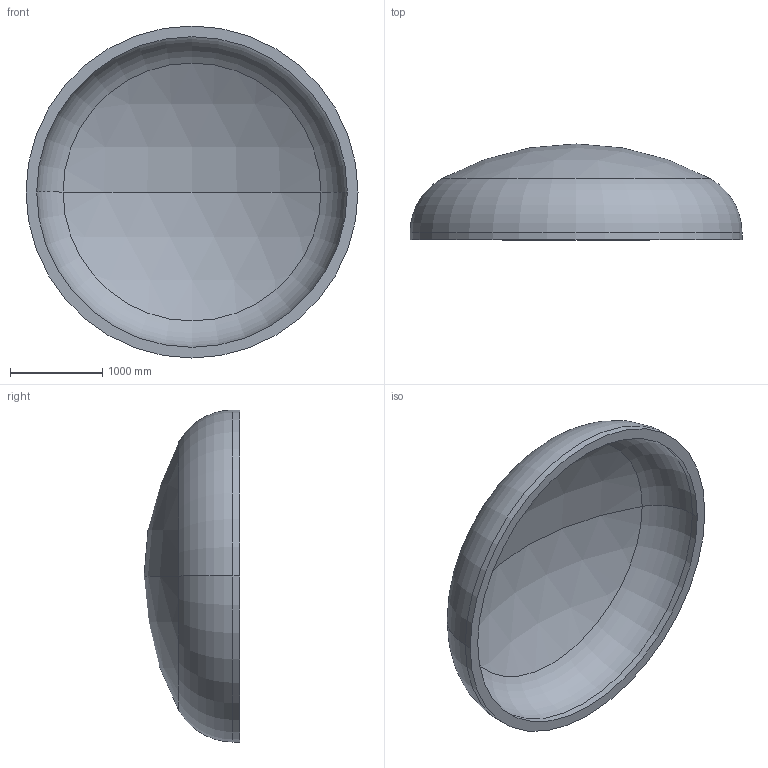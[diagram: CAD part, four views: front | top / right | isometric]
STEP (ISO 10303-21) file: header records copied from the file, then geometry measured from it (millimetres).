
FILE_DESCRIPTION (( 'STEP AP203' ), '1' );
FILE_NAME ('DIN 28013 Korbbogenform_-_Boden DIN 28013 - 3600 x 75 - I - s=116.step', '2016-07-01T20:54:34', ( '' ), ( '' ), 'SwSTEP 2.0', 'SolidWorks 2013', '' );
FILE_SCHEMA (( 'CONFIG_CONTROL_DESIGN' ));
Length unit declared in the file: millimetre
Products named in the file (1): DIN 28013 Korbbogenform_-_Boden DIN 28013 - 3600 x 75 - I - s=116
Bounding box: 3600 x 1038.52 x 3600 mm (x, y, z)
Volume: 1663578289.3 mm3; surface area: 29980212.7 mm2
Topology: 1 solids, 1 shells, 13 faces, 24 edges, 14 vertices
Faces by surface type: torus 4, cylinder 4, sphere 4, plane 1
Entity records: 407 total; most frequent: DIRECTION 72, CARTESIAN_POINT 52, ORIENTED_EDGE 48, AXIS2_PLACEMENT_3D 34, EDGE_CURVE 24, CIRCLE 20, VERTEX_POINT 14, EDGE_LOOP 14
